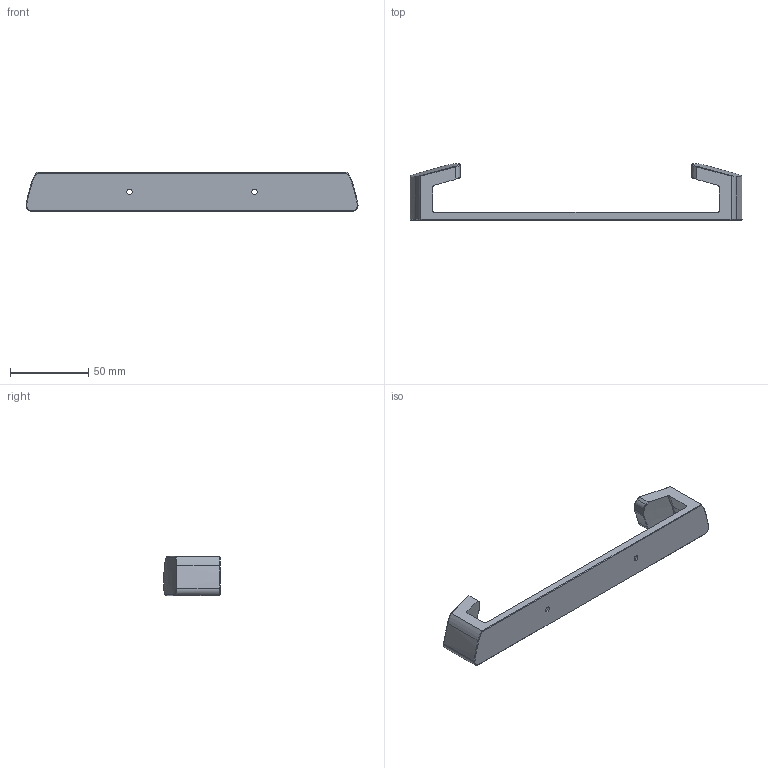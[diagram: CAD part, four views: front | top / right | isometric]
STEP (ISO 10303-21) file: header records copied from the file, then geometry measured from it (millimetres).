
FILE_DESCRIPTION (( 'STEP AP214' ), '1' );
FILE_NAME ('Topfdeckelhalterung 20cm.STEP', '2025-06-14T16:14:07', ( '' ), ( '' ), 'SwSTEP 2.0', 'SolidWorks 2012', '' );
FILE_SCHEMA (( 'AUTOMOTIVE_DESIGN' ));
Length unit declared in the file: millimetre
Products named in the file (1): Topfdeckelhalterung 20cm
Bounding box: 212.5 x 35.89 x 25 mm (x, y, z)
Volume: 41879.1 mm3; surface area: 17933.3 mm2
Topology: 1 solids, 1 shells, 113 faces, 283 edges, 170 vertices
Faces by surface type: bspline 50, cylinder 23, plane 20, cone 10, torus 10
Entity records: 5236 total; most frequent: CARTESIAN_POINT 2934, ORIENTED_EDGE 562, DIRECTION 349, EDGE_CURVE 281, VERTEX_POINT 170, AXIS2_PLACEMENT_3D 142, B_SPLINE_CURVE_WITH_KNOTS 132, EDGE_LOOP 117
